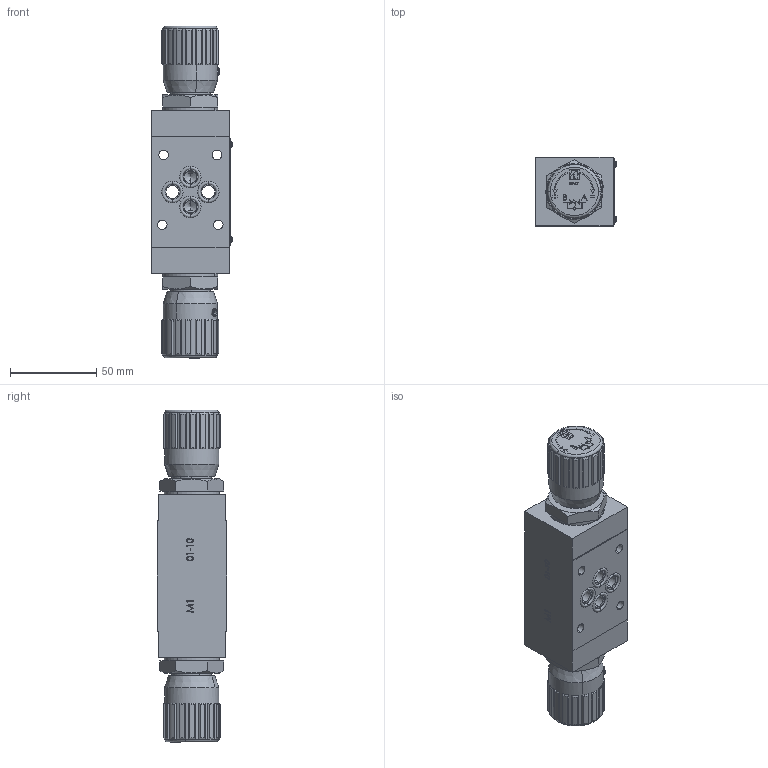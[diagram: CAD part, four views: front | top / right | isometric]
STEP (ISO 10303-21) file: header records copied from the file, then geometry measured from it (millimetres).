
FILE_DESCRIPTION (( 'STEP AP214' ), '1' );
FILE_NAME ('FT357-5-AB-03-H.STEP', '2014-06-17T05:15:19', ( '' ), ( '' ), 'SwSTEP 2.0', 'SolidWorks 2014', '' );
FILE_SCHEMA (( 'AUTOMOTIVE_DESIGN' ));
Length unit declared in the file: millimetre
Products named in the file (21): AnelloFermoFT1251_2-01-12; BK2018; OR2018; 267-5-018000-38; 267-5-017000-38; 267-5-008001-38; 267-5-002001-38; 257-6-009000-38; 357-5-AB101000; RivettoTarga; 357-5-AB015000-H; 357-5-AB001000-H; VolantinoFT257-5_38_Tipo38; GranoFT257_5-38; FT357-5-AB-03-H; DiscoFascetta257_5-38; CappuccioFT257-5_38_Tipo38; OR2037; OR2068; OR132; ViteM3_Semplice
Assembly tree (42 placements, depth 2):
  FT357-5-AB-03-H
    357-5-AB001000-H
    357-5-AB015000-H
    RivettoTarga  x4
    357-5-AB101000  x2
    257-6-009000-38  x2
    267-5-002001-38  x2
    267-5-008001-38  x2
    267-5-017000-38  x2
    267-5-018000-38  x2
    OR2018  x2
    BK2018  x2
    AnelloFermoFT1251_2-01-12  x2
    ViteM3_Semplice  x2
    OR132  x2
    OR2068  x2
    OR2037  x4
    CappuccioFT257-5_38_Tipo38  x2
    DiscoFascetta257_5-38  x2
    GranoFT257_5-38  x2
    VolantinoFT257-5_38_Tipo38  x2
Bounding box: 46.96 x 40.38 x 192.6 mm (x, y, z)
Volume: 216198.9 mm3; surface area: 95346.7 mm2
Topology: 42 solids, 42 shells, 3030 faces, 7659 edges, 4942 vertices
Faces by surface type: plane 1648, cylinder 532, bspline 388, cone 366, torus 92, sphere 4
Entity records: 107578 total; most frequent: CARTESIAN_POINT 38676, ORIENTED_EDGE 11408, DIRECTION 9426, EDGE_CURVE 5704, VECTOR 3870, LINE 3870, VERTEX_POINT 3726, AXIS2_PLACEMENT_3D 2778
